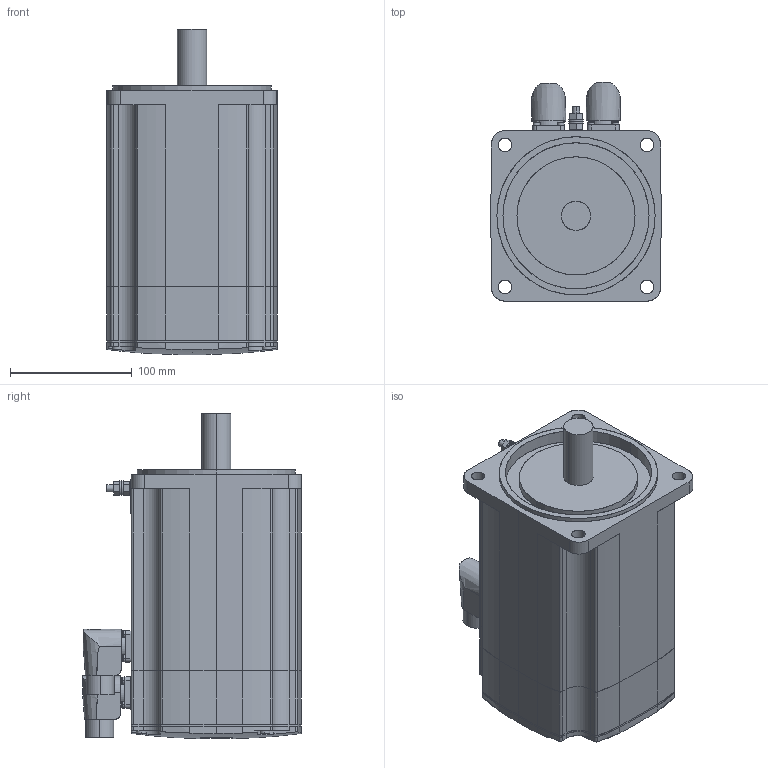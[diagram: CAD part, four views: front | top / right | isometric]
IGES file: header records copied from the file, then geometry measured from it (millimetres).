
Start section: SolidWorks IGES file using analytic representation for surfaces
Global section: file name: C:\PDM\SW-SAP\AA-IGES\SH31401x0xA2100.IGS; native system: SolidWorks 2010; preprocessor: SolidWorks 2010; author: SESA21951; date: 131129.110613; units: millimetre
Bounding box: 140 x 179.9 x 267.35 mm (x, y, z)
Surface area: 281570 mm2 (no closed solid volume)
Topology: 0 solids, 0 shells, 423 faces, 6430 edges, 6430 vertices
Faces by surface type: revolution 227, bspline 196
